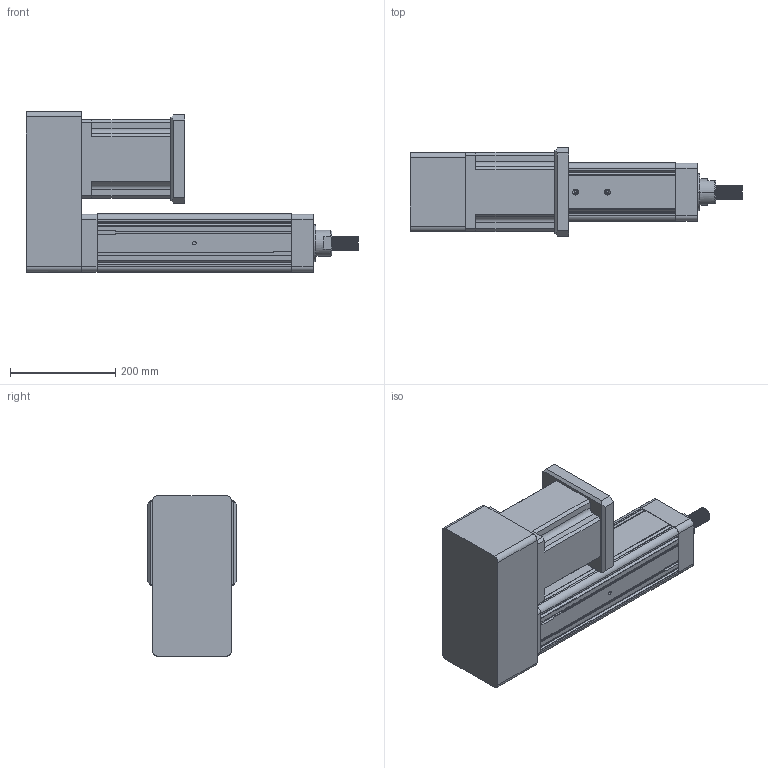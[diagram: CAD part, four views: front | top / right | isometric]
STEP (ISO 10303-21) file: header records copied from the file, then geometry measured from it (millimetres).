
FILE_DESCRIPTION (( 'STEP AP203' ), '1' );
FILE_NAME ('YRJ110-L200-H1K1.STEP', '2020-01-04T05:44:26', ( 'User' ), ( 'China' ), 'SwSTEP 2.0', 'SolidWorks 2016', '' );
FILE_SCHEMA (( 'CONFIG_CONTROL_DESIGN' ));
Length unit declared in the file: millimetre
Products named in the file (7): H1-110-2; K1-110; 萇儂碟-110; 142熬厒儂; YRJ110-L200-H1K1; 095-100俴最倰第; H1-110-1
Assembly tree (6 placements, depth 2):
  YRJ110-L200-H1K1
    095-100俴最倰第
    H1-110-1
    H1-110-2
    K1-110
    萇儂碟-110
    142熬厒儂
Bounding box: 631 x 168 x 305.5 mm (x, y, z)
Volume: 11376210.7 mm3; surface area: 812548.3 mm2
Topology: 6 solids, 6 shells, 364 faces, 1005 edges, 644 vertices
Faces by surface type: plane 165, cylinder 160, cone 35, bspline 4
Entity records: 20176 total; most frequent: CARTESIAN_POINT 10347, ORIENTED_EDGE 1962, DIRECTION 1833, EDGE_CURVE 981, VERTEX_POINT 644, LINE 613, VECTOR 613, AXIS2_PLACEMENT_3D 610
